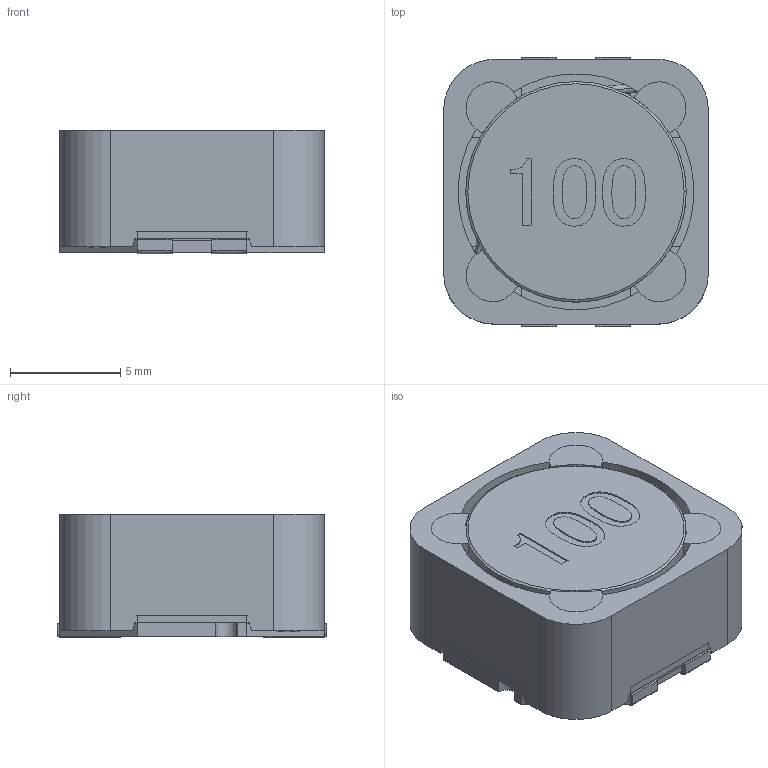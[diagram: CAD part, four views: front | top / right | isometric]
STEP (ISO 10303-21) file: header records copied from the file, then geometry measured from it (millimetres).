
FILE_DESCRIPTION((''),'2;1');
FILE_NAME('SRF1260A_ASM','2015-07-16T',('brandonc'),('Bourns, Inc.'),'PRO/ENGINEER BY PARAMETRIC TECHNOLOGY CORPORATION, 2012230','PRO/ENGINEER BY PARAMETRIC TECHNOLOGY CORPORATION, 2012230','');
FILE_SCHEMA(('CONFIG_CONTROL_DESIGN'));
Products named in the file (32): MANIFOLD_SOLID_BREP_4201; MANIFOLD_SOLID_BREP_18259; MANIFOLD_SOLID_BREP_35138; MANIFOLD_SOLID_BREP_75913; MANIFOLD_SOLID_BREP_76067; MANIFOLD_SOLID_BREP_76221; MANIFOLD_SOLID_BREP_76375; MANIFOLD_SOLID_BREP_76529; MANIFOLD_SOLID_BREP_76851; MANIFOLD_SOLID_BREP_79295; MANIFOLD_SOLID_BREP_80937; MANIFOLD_SOLID_BREP_81259; MANIFOLD_SOLID_BREP_81581; MANIFOLD_SOLID_BREP_81888; MANIFOLD_SOLID_BREP_82245; MANIFOLD_SOLID_BREP_82552; MANIFOLD_SOLID_BREP_82909; MANIFOLD_SOLID_BREP_82976; MANIFOLD_SOLID_BREP_83034; MANIFOLD_SOLID_BREP_83332; MANIFOLD_SOLID_BREP_83390; MANIFOLD_SOLID_BREP_83688; MANIFOLD_SOLID_BREP_84385; MANIFOLD_SOLID_BREP_84452; MANIFOLD_SOLID_BREP_84510; MANIFOLD_SOLID_BREP_84808; MANIFOLD_SOLID_BREP_84866; MANIFOLD_SOLID_BREP_85164; MANIFOLD_SOLID_BREP_85231; MANIFOLD_SOLID_BREP_85869; 0_ASM; SRF1260A_ASM
Assembly tree (31 placements, depth 3):
  SRF1260A_ASM
    0_ASM
      MANIFOLD_SOLID_BREP_4201
      MANIFOLD_SOLID_BREP_18259
      MANIFOLD_SOLID_BREP_35138
      MANIFOLD_SOLID_BREP_75913
      MANIFOLD_SOLID_BREP_76067
      MANIFOLD_SOLID_BREP_76221
      MANIFOLD_SOLID_BREP_76375
      MANIFOLD_SOLID_BREP_76529
      MANIFOLD_SOLID_BREP_76851
      MANIFOLD_SOLID_BREP_79295
      MANIFOLD_SOLID_BREP_80937
      MANIFOLD_SOLID_BREP_81259
      MANIFOLD_SOLID_BREP_81581
      MANIFOLD_SOLID_BREP_81888
      MANIFOLD_SOLID_BREP_82245
      MANIFOLD_SOLID_BREP_82552
      MANIFOLD_SOLID_BREP_82909
      MANIFOLD_SOLID_BREP_82976
      MANIFOLD_SOLID_BREP_83034
      MANIFOLD_SOLID_BREP_83332
      MANIFOLD_SOLID_BREP_83390
      MANIFOLD_SOLID_BREP_83688
      MANIFOLD_SOLID_BREP_84385
      MANIFOLD_SOLID_BREP_84452
      MANIFOLD_SOLID_BREP_84510
      MANIFOLD_SOLID_BREP_84808
      MANIFOLD_SOLID_BREP_84866
      MANIFOLD_SOLID_BREP_85164
      MANIFOLD_SOLID_BREP_85231
      MANIFOLD_SOLID_BREP_85869
Bounding box: 12 x 12.22 x 5.61 mm (x, y, z)
Volume: 315.1 mm3; surface area: 1793 mm2
Topology: 12 solids, 30 shells, 436 faces, 1099 edges, 700 vertices
Faces by surface type: plane 262, cylinder 65, extrusion 56, bspline 46, cone 7
Entity records: 191291 total; most frequent: CARTESIAN_POINT 180636, ORIENTED_EDGE 2109, DIRECTION 1944, EDGE_CURVE 1096, VECTOR 720, VERTEX_POINT 700, LINE 664, AXIS2_PLACEMENT_3D 612
